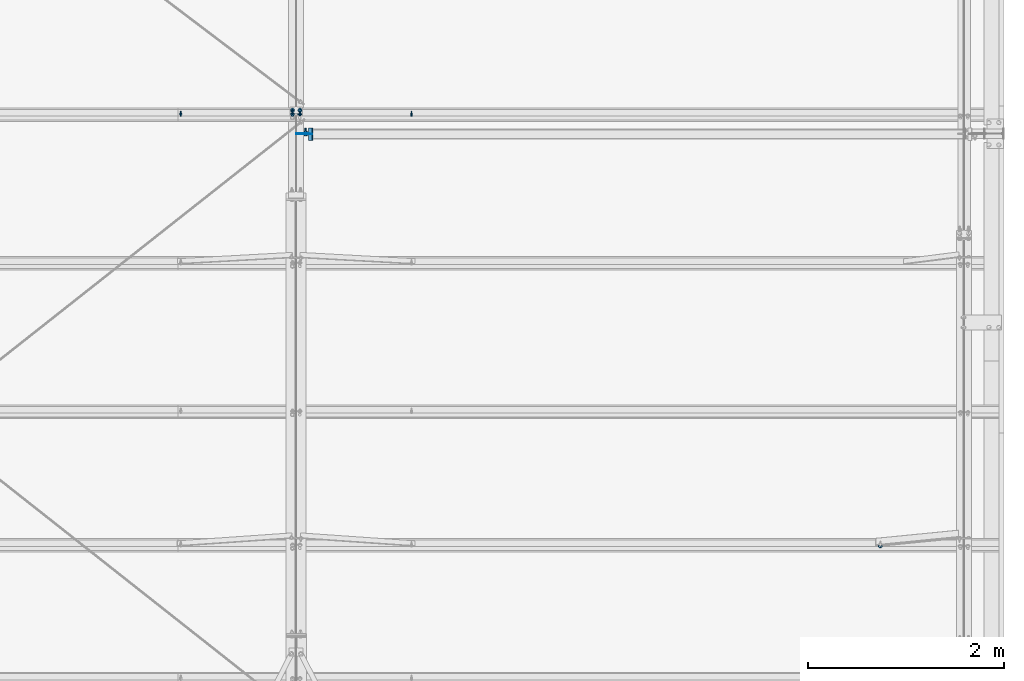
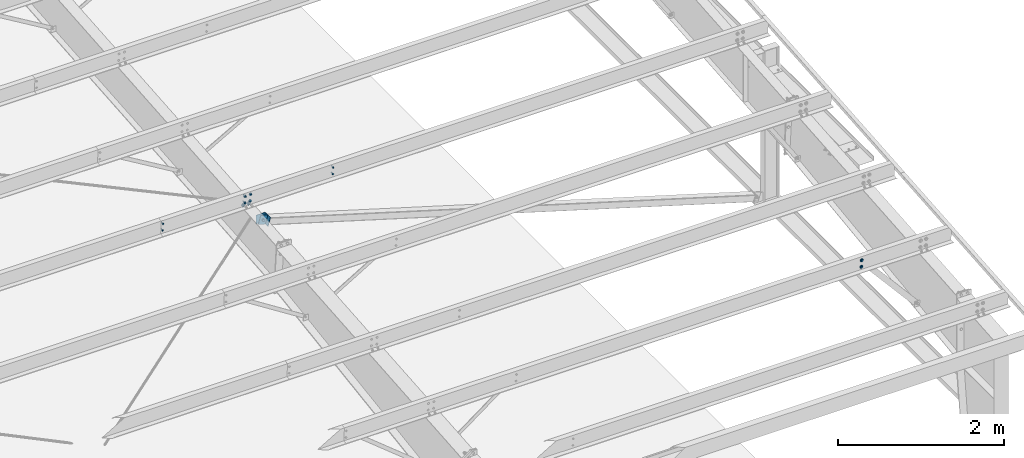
# One storey, part 103 of 185: 9 mechanical fasteners, 3 discrete accessories, 6 elements without a shape of their own.
"""IFC2X3 building model written with IfcOpenShell, lengths in millimetres."""

from ifc_helpers import new_model, si_unit, frame, origin_with_axes, origin_2d_with_axis, place, context, subcontext, project, spatial, polyline, rectangle, circle, outline, extrude, source, transform, mapped, material, type_object, element, aggregate, save


model = new_model("IFC2X3")

# Units and contexts
model_context = context("Model", 3, precision=1e-05, world=origin_with_axes())
body_context = subcontext(model_context, "Body", "Model", "MODEL_VIEW")
ifc_project = project(units=[si_unit("LENGTHUNIT", "METRE", prefix="MILLI"), si_unit("AREAUNIT", "SQUARE_METRE"), si_unit("VOLUMEUNIT", "CUBIC_METRE"), si_unit("MASSUNIT", "GRAM", prefix="KILO"), si_unit("TIMEUNIT", "SECOND"), si_unit("PLANEANGLEUNIT", "RADIAN"), si_unit("SOLIDANGLEUNIT", "STERADIAN"), si_unit("THERMODYNAMICTEMPERATUREUNIT", "DEGREE_CELSIUS"), si_unit("LUMINOUSINTENSITYUNIT", "LUMEN")], contexts=[model_context])

# Site, building, storey
site_placement = place(None, origin_with_axes())
site = spatial("IfcSite", under=ifc_project, at=site_placement, Name="Undefined", CompositionType="ELEMENT")
building_placement = place(site_placement, origin_with_axes())
building = spatial("IfcBuilding", under=site, at=building_placement, Name="Undefined", CompositionType="ELEMENT")
storey_placement = place(building_placement, origin_with_axes())
storey = spatial("IfcBuildingStorey", under=building, at=storey_placement, Name="Undefined", CompositionType="ELEMENT", Elevation=0.0)

# Assembly, mechanical fastener
assembly_1_placement = place(storey_placement, origin_with_axes())
assembly_1 = element("IfcElementAssembly", 1, at=assembly_1_placement, inside=storey, Name="Steel Assembly", AssemblyPlace="NOTDEFINED", PredefinedType="RIGID_FRAME")
ifc_material_1 = material(Name="Undefined")
discrete_accessory_type_1 = type_object("IfcDiscreteAccessoryType", Name="Bolt assembly")
shared_shape_1 = source(origin_with_axes(), body_context, "Body", "SweptSolid", [
    extrude(circle(Radius=7.14374971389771, at=origin_2d_with_axis()), frame((0.0, -1.59000001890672, 0.0), z_axis=(0.0, 1.0, 0.0), x_axis=(1.0, 0.0, 0.0)), (0.0, 0.0, 1.0), 3.3),
    extrude(circle(Radius=13.4937496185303, at=origin_2d_with_axis()), frame((0.0, -5.5587500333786, 0.0), z_axis=(0.0, 1.0, 0.0), x_axis=(1.0, 0.0, 0.0)), (0.0, 0.0, 1.0), 4.0),
    extrude(circle(Radius=22.2250003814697, at=origin_2d_with_axis()), frame((0.0, 1.5900000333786, 0.0), z_axis=(0.0, 1.0, 0.0), x_axis=(1.0, 0.0, 0.0)), (0.0, 0.0, 1.0), 7.9),
    extrude(outline(polyline([(12.8316099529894, 0.0), (6.4158049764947, 11.1125001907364), (-6.4158049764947, 11.1125001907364), (-12.8316099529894, 0.0), (-6.4158049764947, -11.1125001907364), (6.4158049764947, -11.1125001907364), (12.8316099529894, 0.0)])), frame((0.0, 9.5275000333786, 0.0), z_axis=(0.0, 1.0, 0.0), x_axis=(1.0, 0.0, 0.0)), (0.0, 0.0, 1.0), 12.3),
])
mechanical_fastener_1_placement = place(assembly_1_placement, frame((43694.35, 2185.72394128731, 6227.16757842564), z_axis=(-1.0, 0.0, 0.0), x_axis=(0.0, 0.0830454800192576, -0.996545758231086)))
mechanical_fastener_1 = element("IfcMechanicalFastener", 2, at=mechanical_fastener_1_placement, type_object=discrete_accessory_type_1, material=ifc_material_1, Name="Bolt assembly", NominalDiameter=12.6999998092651, NominalLength=38.0999984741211, context=body_context, shape_type="MappedRepresentation", body=[
    mapped(shared_shape_1, transform((0.0, 0.0, 0.0))),
    mapped(shared_shape_1, transform((101.599998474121, 0.0, 0.0))),
])
aggregate(assembly_1, [mechanical_fastener_1])

assembly_2_placement = place(storey_placement, origin_with_axes())
assembly_2 = element("IfcElementAssembly", 3, at=assembly_2_placement, inside=storey, Name="Steel Assembly", AssemblyPlace="NOTDEFINED", PredefinedType="RIGID_FRAME")
mechanical_fastener_2_placement = place(assembly_2_placement, frame((37757.1, 6590.05757436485, 6594.19538193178), z_axis=(1.0, 0.0, 0.0), x_axis=(0.0, 0.0830454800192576, -0.996545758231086)))
mechanical_fastener_2 = element("IfcMechanicalFastener", 4, at=mechanical_fastener_2_placement, type_object=discrete_accessory_type_1, material=ifc_material_1, Name="Bolt assembly", NominalDiameter=12.6999998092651, NominalLength=38.0999984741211, context=body_context, shape_type="MappedRepresentation", body=[
    mapped(shared_shape_1, transform((0.0, 0.0, 0.0))),
    mapped(shared_shape_1, transform((101.599998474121, 0.0, 0.0))),
])
aggregate(assembly_2, [mechanical_fastener_2])

assembly_3_placement = place(storey_placement, origin_with_axes())
assembly_3 = element("IfcElementAssembly", 5, at=assembly_3_placement, inside=storey, Name="Steel Assembly", AssemblyPlace="NOTDEFINED", PredefinedType="RIGID_FRAME")
mechanical_fastener_3_placement = place(assembly_3_placement, frame((37680.9, 6590.05757431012, 6594.19538269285), z_axis=(1.0, 0.0, 0.0), x_axis=(0.0, 0.0830454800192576, -0.996545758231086)))
mechanical_fastener_3 = element("IfcMechanicalFastener", 6, at=mechanical_fastener_3_placement, type_object=discrete_accessory_type_1, material=ifc_material_1, Name="Bolt assembly", NominalDiameter=12.6999998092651, NominalLength=38.0999984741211, context=body_context, shape_type="MappedRepresentation", body=[
    mapped(shared_shape_1, transform((0.0, 0.0, 0.0))),
    mapped(shared_shape_1, transform((101.599998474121, 0.0, 0.0))),
])

# Assembly, discrete accessories
assembly_4_placement = place(storey_placement, origin_with_axes())
assembly_4 = element("IfcElementAssembly", 7, at=assembly_4_placement, inside=storey, Name="Steel Assembly", AssemblyPlace="NOTDEFINED", PredefinedType="RIGID_FRAME")
ifc_material_2 = material(Name="STEEL/55")
discrete_accessory_type_2 = type_object("IfcDiscreteAccessoryType", Name="PLATE")
discrete_accessory_1_placement = place(assembly_4_placement, frame((37834.295487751, 6397.6250000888, 6382.82140782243), z_axis=(-0.957765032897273, 0.0, 0.287551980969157), x_axis=(-0.28755198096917, 0.0, -0.957765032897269)))
discrete_accessory_1 = element("IfcDiscreteAccessory", 8, at=discrete_accessory_1_placement, type_object=discrete_accessory_type_2, material=ifc_material_2, Name="PLATE", ObjectType="FL1/4\"X4\"", context=body_context, shape_type="SweptSolid", body=[
    extrude(rectangle(XDim=6.35, YDim=101.6, at=origin_2d_with_axis()), frame((127.000000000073, 3.63797855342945e-12, 7.27595761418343e-12), z_axis=(-1.0, 0.0, 0.0), x_axis=(0.0, -1.0, 0.0)), (0.0, 0.0, 1.0), 127.0),
])
discrete_accessory_2_placement = place(assembly_4_placement, frame((37885.9908552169, 6397.62500009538, 6367.30078960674), z_axis=(0.0, 1.0, 0.0), x_axis=(-0.28755198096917, 0.0, -0.957765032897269)))
discrete_accessory_2 = element("IfcDiscreteAccessory", 9, at=discrete_accessory_2_placement, type_object=discrete_accessory_type_2, material=ifc_material_2, Name="PLATE", ObjectType="FL1/4\"X5\"", context=body_context, shape_type="SweptSolid", body=[
    extrude(rectangle(XDim=6.35, YDim=127.0, at=origin_2d_with_axis()), frame((127.000000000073, 3.63797855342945e-12, 7.27595761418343e-12), z_axis=(-1.0, 0.0, 0.0), x_axis=(0.0, -1.0, 0.0)), (0.0, 0.0, 1.0), 127.0),
])

# Assembly, discrete accessory
assembly_5_placement = place(storey_placement, origin_with_axes())
assembly_5 = element("IfcElementAssembly", 10, at=assembly_5_placement, inside=storey, Name="Steel Assembly", AssemblyPlace="NOTDEFINED", PredefinedType="RIGID_FRAME")
discrete_accessory_3_placement = place(assembly_5_placement, frame((37847.785937, 6400.80000000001, 6353.75364095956), z_axis=(0.0, 0.0, 1.0), x_axis=(-1.0, 0.0, 0.0)))
discrete_accessory_3 = element("IfcDiscreteAccessory", 11, at=discrete_accessory_3_placement, type_object=discrete_accessory_type_2, material=ifc_material_2, Name="PLATE", ObjectType="FL1/4\"X5\"", context=body_context, shape_type="SweptSolid", body=[
    extrude(rectangle(XDim=6.35, YDim=127.0, at=origin_2d_with_axis()), frame((127.000000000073, 3.63797855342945e-12, 7.27595761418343e-12), z_axis=(-1.0, 0.0, 0.0), x_axis=(0.0, -1.0, 0.0)), (0.0, 0.0, 1.0), 127.0),
])

# Mechanical fastener
shared_shape_2 = source(origin_with_axes(), body_context, "Body", "SweptSolid", [
    extrude(circle(Radius=10.3187494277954, at=origin_2d_with_axis()), frame((0.0, -3.27500039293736, 0.0), z_axis=(0.0, 1.0, 0.0), x_axis=(1.0, 0.0, 0.0)), (0.0, 0.0, 1.0), 6.5),
    extrude(circle(Radius=10.3187494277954, at=origin_2d_with_axis()), frame((0.0, -6.24999999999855, 0.0), z_axis=(0.0, 1.0, 0.0), x_axis=(1.0, 0.0, 0.0)), (0.0, 0.0, 1.0), 6.4),
    extrude(outline(polyline([(18.3308710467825, 0.0), (9.16543552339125, 15.8750000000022), (-9.16543552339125, 15.8750000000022), (-18.3308710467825, 0.0), (-9.16543552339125, -15.8750000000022), (9.16543552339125, -15.8750000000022), (18.3308710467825, 0.0)])), frame((0.0, -22.2249999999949, 0.0), z_axis=(0.0, 1.0, 0.0), x_axis=(1.0, 0.0, 0.0)), (0.0, 0.0, 1.0), 11.9),
    extrude(circle(Radius=9.52499961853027, at=origin_2d_with_axis()), frame((0.0, -10.3187499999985, 0.0), z_axis=(0.0, 1.0, 0.0), x_axis=(1.0, 0.0, 0.0)), (0.0, 0.0, 1.0), 69.8),
    extrude(circle(Radius=18.2562503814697, at=origin_2d_with_axis()), frame((0.0, -10.3187499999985, 0.0), z_axis=(0.0, 1.0, 0.0), x_axis=(1.0, 0.0, 0.0)), (0.0, 0.0, 1.0), 4.0),
    extrude(circle(Radius=22.2250003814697, at=origin_2d_with_axis()), frame((0.0, 3.17500610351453, 0.0), z_axis=(0.0, 1.0, 0.0), x_axis=(1.0, 0.0, 0.0)), (0.0, 0.0, 1.0), 7.9),
    extrude(outline(polyline([(18.3308710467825, 0.0), (9.16543552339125, 15.8750000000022), (-9.16543552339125, 15.8750000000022), (-18.3308710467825, 0.0), (-9.16543552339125, -15.8750000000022), (9.16543552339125, -15.8750000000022), (18.3308710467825, 0.0)])), frame((0.0, 11.1125061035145, 0.0), z_axis=(0.0, 1.0, 0.0), x_axis=(1.0, 0.0, 0.0)), (0.0, 0.0, 1.0), 19.0),
])
mechanical_fastener_4_placement = place(assembly_4_placement, frame((37816.0359370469, 6400.8, 6322.0033289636), z_axis=(0.0, 0.0, -1.0), x_axis=(-1.0, 0.0, 0.0)))
mechanical_fastener_4 = element("IfcMechanicalFastener", 12, at=mechanical_fastener_4_placement, type_object=discrete_accessory_type_1, material=ifc_material_1, Name="Bolt assembly", NominalDiameter=19.0499992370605, NominalLength=69.8499984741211, context=body_context, shape_type="MappedRepresentation", body=[
    mapped(shared_shape_2, transform((0.0, 0.0, 0.0))),
])

aggregate(assembly_4, [discrete_accessory_1, discrete_accessory_2, mechanical_fastener_4])

shared_shape_3 = source(origin_with_axes(), body_context, "Body", "SweptSolid", [
    extrude(circle(Radius=7.14374971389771, at=origin_2d_with_axis()), frame((0.0, -4.65999985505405, 0.0), z_axis=(0.0, 1.0, 0.0), x_axis=(1.0, 0.0, 0.0)), (0.0, 0.0, 1.0), 4.8),
    extrude(circle(Radius=7.14374971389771, at=origin_2d_with_axis()), frame((0.0, -0.0238014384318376, 0.0), z_axis=(0.0, 1.0, 0.0), x_axis=(1.0, 0.0, 0.0)), (0.0, 0.0, 1.0), 8.0),
    extrude(outline(polyline([(12.8316099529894, 0.0), (6.4158049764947, 11.1125001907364), (-6.4158049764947, 11.1125001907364), (-12.8316099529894, 0.0), (-6.4158049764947, -11.1125001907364), (6.4158049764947, -11.1125001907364), (12.8316099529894, 0.0)])), frame((0.0, -12.697499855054, 0.0), z_axis=(0.0, 1.0, 0.0), x_axis=(1.0, 0.0, 0.0)), (0.0, 0.0, 1.0), 7.9),
    extrude(circle(Radius=6.34999990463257, at=origin_2d_with_axis()), frame((0.0, -4.75999985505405, 0.0), z_axis=(0.0, 1.0, 0.0), x_axis=(1.0, 0.0, 0.0)), (0.0, 0.0, 1.0), 50.8),
    extrude(circle(Radius=22.2250003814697, at=origin_2d_with_axis()), frame((0.0, 7.95019856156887, 0.0), z_axis=(0.0, 1.0, 0.0), x_axis=(1.0, 0.0, 0.0)), (0.0, 0.0, 1.0), 7.9),
    extrude(outline(polyline([(12.8316099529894, 0.0), (6.4158049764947, 11.1125001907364), (-6.4158049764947, 11.1125001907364), (-12.8316099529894, 0.0), (-6.4158049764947, -11.1125001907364), (6.4158049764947, -11.1125001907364), (12.8316099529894, 0.0)])), frame((0.0, 15.8876985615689, 0.0), z_axis=(0.0, 1.0, 0.0), x_axis=(1.0, 0.0, 0.0)), (0.0, 0.0, 1.0), 12.3),
])
mechanical_fastener_5_placement = place(assembly_5_placement, frame((37719.0, 6640.68209888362, 6445.48584115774), z_axis=(-1.0, 0.0, 0.0), x_axis=(0.0, 0.996545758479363, 0.0830454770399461)))
mechanical_fastener_5 = element("IfcMechanicalFastener", 13, at=mechanical_fastener_5_placement, type_object=discrete_accessory_type_1, material=ifc_material_1, Name="Bolt assembly", NominalDiameter=12.6999998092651, NominalLength=50.7999992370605, context=body_context, shape_type="MappedRepresentation", body=[
    mapped(shared_shape_3, transform((0.0, 0.0, -38.0999984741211))),
    mapped(shared_shape_3, transform((0.0, 0.0, 38.0999984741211))),
])

aggregate(assembly_5, [mechanical_fastener_5, discrete_accessory_3])

# Assembly, mechanical fasteners
assembly_6_placement = place(storey_placement, origin_with_axes())
assembly_6 = element("IfcElementAssembly", 14, at=assembly_6_placement, inside=storey, Name="Steel Assembly", AssemblyPlace="NOTDEFINED", PredefinedType="RIGID_FRAME")
shared_shape_4 = source(origin_with_axes(), body_context, "Body", "SweptSolid", [
    extrude(circle(Radius=7.14374971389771, at=origin_2d_with_axis()), frame((0.0, 0.0, 0.0), z_axis=(0.0, 1.0, 0.0), x_axis=(1.0, 0.0, 0.0)), (0.0, 0.0, 1.0), 4.9),
    extrude(outline(polyline([(12.8316099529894, 0.0), (6.4158049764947, 11.1125001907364), (-6.4158049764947, 11.1125001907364), (-12.8316099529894, 0.0), (-6.4158049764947, -11.1125001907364), (6.4158049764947, -11.1125001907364), (12.8316099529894, 0.0)])), frame((0.0, 4.76000382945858, 0.0), z_axis=(0.0, 1.0, 0.0), x_axis=(1.0, 0.0, 0.0)), (0.0, 0.0, 1.0), 12.3),
])
mechanical_fastener_6_placement = place(assembly_6_placement, frame((37757.1, 6590.05757436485, 6594.19538193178), z_axis=(1.0, 0.0, 0.0), x_axis=(0.0, 0.0830454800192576, -0.996545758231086)))
mechanical_fastener_6 = element("IfcMechanicalFastener", 15, at=mechanical_fastener_6_placement, type_object=discrete_accessory_type_1, material=ifc_material_1, Name="Bolt assembly", NominalDiameter=12.6999998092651, NominalLength=50.7999992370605, context=body_context, shape_type="MappedRepresentation", body=[
    mapped(shared_shape_4, transform((0.0, 0.0, 0.0))),
    mapped(shared_shape_4, transform((101.599998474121, 0.0, 0.0))),
])
shared_shape_5 = source(origin_with_axes(), body_context, "Body", "SweptSolid", [
    extrude(circle(Radius=7.14374971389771, at=origin_2d_with_axis()), frame((0.0, 0.0, 0.0), z_axis=(0.0, 1.0, 0.0), x_axis=(1.0, 0.0, 0.0)), (0.0, 0.0, 1.0), 4.9),
    extrude(outline(polyline([(12.8316099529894, 0.0), (6.4158049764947, 11.1125001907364), (-6.4158049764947, 11.1125001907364), (-12.8316099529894, 0.0), (-6.4158049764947, -11.1125001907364), (6.4158049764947, -11.1125001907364), (12.8316099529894, 0.0)])), frame((0.0, -11.9062498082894, 0.0), z_axis=(0.0, 1.0, 0.0), x_axis=(1.0, 0.0, 0.0)), (0.0, 0.0, 1.0), 7.9),
    extrude(circle(Radius=6.34999990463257, at=origin_2d_with_axis()), frame((0.0, -3.96874999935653, 0.0), z_axis=(0.0, 1.0, 0.0), x_axis=(1.0, 0.0, 0.0)), (0.0, 0.0, 1.0), 50.8),
    extrude(circle(Radius=13.4937496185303, at=origin_2d_with_axis()), frame((0.0, -3.96874999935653, 0.0), z_axis=(0.0, 1.0, 0.0), x_axis=(1.0, 0.0, 0.0)), (0.0, 0.0, 1.0), 4.0),
    extrude(circle(Radius=22.2250003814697, at=origin_2d_with_axis()), frame((0.0, 4.76000382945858, 0.0), z_axis=(0.0, 1.0, 0.0), x_axis=(1.0, 0.0, 0.0)), (0.0, 0.0, 1.0), 7.9),
    extrude(outline(polyline([(12.8316099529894, 0.0), (6.4158049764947, 11.1125001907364), (-6.4158049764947, 11.1125001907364), (-12.8316099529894, 0.0), (-6.4158049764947, -11.1125001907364), (6.4158049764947, -11.1125001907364), (12.8316099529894, 0.0)])), frame((0.0, 12.6975038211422, 0.0), z_axis=(0.0, 1.0, 0.0), x_axis=(1.0, 0.0, 0.0)), (0.0, 0.0, 1.0), 12.3),
])
mechanical_fastener_7_placement = place(assembly_6_placement, frame((37680.9, 6590.05757431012, 6594.19538269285), z_axis=(1.0, 0.0, 0.0), x_axis=(0.0, 0.0830454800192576, -0.996545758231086)))
mechanical_fastener_7 = element("IfcMechanicalFastener", 16, at=mechanical_fastener_7_placement, type_object=discrete_accessory_type_1, material=ifc_material_1, Name="Bolt assembly", NominalDiameter=12.6999998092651, NominalLength=50.7999992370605, context=body_context, shape_type="MappedRepresentation", body=[
    mapped(shared_shape_5, transform((0.0, 0.0, 0.0))),
    mapped(shared_shape_5, transform((101.599998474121, 0.0, 0.0))),
])
aggregate(assembly_6, [mechanical_fastener_6, mechanical_fastener_7])

# Mechanical fastener
shared_shape_6 = source(origin_with_axes(), body_context, "Body", "SweptSolid", [
    extrude(circle(Radius=7.14374971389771, at=origin_2d_with_axis()), frame((0.0, -1.4900000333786, 0.0), z_axis=(0.0, 1.0, 0.0), x_axis=(1.0, 0.0, 0.0)), (0.0, 0.0, 1.0), 3.2),
    extrude(circle(Radius=7.14374971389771, at=origin_2d_with_axis()), frame((0.0, -1.69000003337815, 0.0), z_axis=(0.0, 1.0, 0.0), x_axis=(1.0, 0.0, 0.0)), (0.0, 0.0, 1.0), 3.3),
    extrude(outline(polyline([(10.9985221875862, 0.0), (5.4992610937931, 9.52499961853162), (-5.4992610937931, 9.52499961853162), (-10.9985221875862, 0.0), (-5.4992610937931, -9.52499961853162), (5.4992610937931, -9.52499961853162), (10.9985221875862, 0.0)])), frame((0.0, -11.1149996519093, 0.0), z_axis=(0.0, 1.0, 0.0), x_axis=(1.0, 0.0, 0.0)), (0.0, 0.0, 1.0), 9.5),
    extrude(circle(Radius=6.34999990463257, at=origin_2d_with_axis()), frame((0.0, -1.59000001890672, 0.0), z_axis=(0.0, 1.0, 0.0), x_axis=(1.0, 0.0, 0.0)), (0.0, 0.0, 1.0), 38.1),
    extrude(outline(polyline([(12.8316099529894, 0.0), (6.4158049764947, 11.1125001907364), (-6.4158049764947, 11.1125001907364), (-12.8316099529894, 0.0), (-6.4158049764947, -11.1125001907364), (6.4158049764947, -11.1125001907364), (12.8316099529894, 0.0)])), frame((0.0, 1.5900000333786, 0.0), z_axis=(0.0, 1.0, 0.0), x_axis=(1.0, 0.0, 0.0)), (0.0, 0.0, 1.0), 12.3),
])
mechanical_fastener_8_placement = place(assembly_3_placement, frame((38900.1, 6590.05757436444, 6594.19538192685), z_axis=(1.0, 0.0, 0.0), x_axis=(0.0, 0.0830454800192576, -0.996545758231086)))
mechanical_fastener_8 = element("IfcMechanicalFastener", 17, at=mechanical_fastener_8_placement, type_object=discrete_accessory_type_1, material=ifc_material_1, Name="Bolt assembly", NominalDiameter=12.6999998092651, NominalLength=38.0999984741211, context=body_context, shape_type="MappedRepresentation", body=[
    mapped(shared_shape_6, transform((0.0, 0.0, 0.0))),
    mapped(shared_shape_6, transform((101.599998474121, 0.0, 0.0))),
])

mechanical_fastener_9_placement = place(assembly_3_placement, frame((36537.9, 6590.05757436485, 6594.19538193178), z_axis=(1.0, 0.0, 0.0), x_axis=(0.0, 0.0830454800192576, -0.996545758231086)))
mechanical_fastener_9 = element("IfcMechanicalFastener", 18, at=mechanical_fastener_9_placement, type_object=discrete_accessory_type_1, material=ifc_material_1, Name="Bolt assembly", NominalDiameter=12.6999998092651, NominalLength=38.0999984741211, context=body_context, shape_type="MappedRepresentation", body=[
    mapped(shared_shape_6, transform((0.0, 0.0, 0.0))),
    mapped(shared_shape_6, transform((101.599998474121, 0.0, 0.0))),
])

aggregate(assembly_3, [mechanical_fastener_3, mechanical_fastener_8, mechanical_fastener_9])

save(model, "model.ifc")
